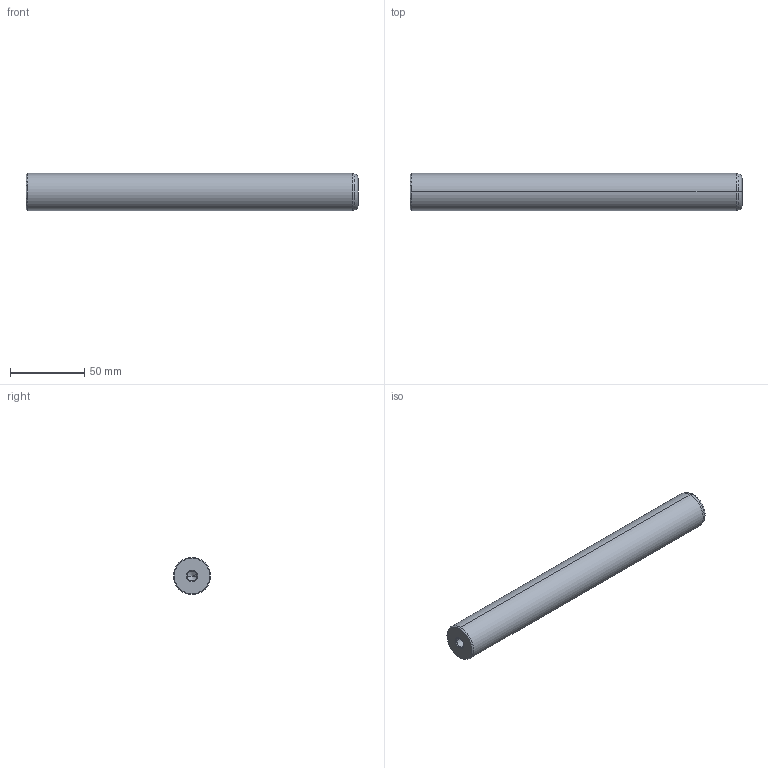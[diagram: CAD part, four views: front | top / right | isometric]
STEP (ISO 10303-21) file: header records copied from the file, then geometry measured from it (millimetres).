
FILE_DESCRIPTION(('CATIA V5 STEP Exchange'),'2;1');
FILE_NAME('C:\Users\Utente\Desktop\IO LAVORO\3D X SITO CF\X SITO\720\720-25x224.stp','2021-01-01T12:40:57+00:00',('none'),('none'),'CATIA Version 5 Release 20 GA (IN-10)','CATIA V5 STEP AP203','none');
FILE_SCHEMA(('CONFIG_CONTROL_DESIGN'));
Length unit declared in the file: millimetre
Products named in the file (1): 720-25x224
Bounding box: 224 x 25 x 25 mm (x, y, z)
Volume: 107979.1 mm3; surface area: 19403.6 mm2
Topology: 1 solids, 1 shells, 22 faces, 56 edges, 34 vertices
Faces by surface type: cone 12, cylinder 6, plane 2, torus 2
Entity records: 755 total; most frequent: CARTESIAN_POINT 216, ORIENTED_EDGE 104, DIRECTION 89, EDGE_CURVE 52, AXIS2_PLACEMENT_3D 50, VERTEX_POINT 34, CIRCLE 27, EDGE_LOOP 24
